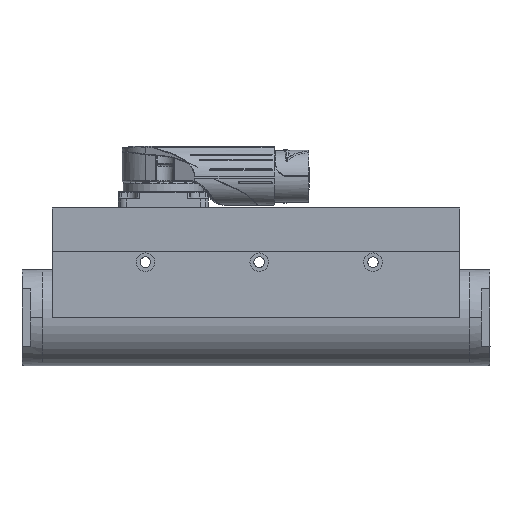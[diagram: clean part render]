
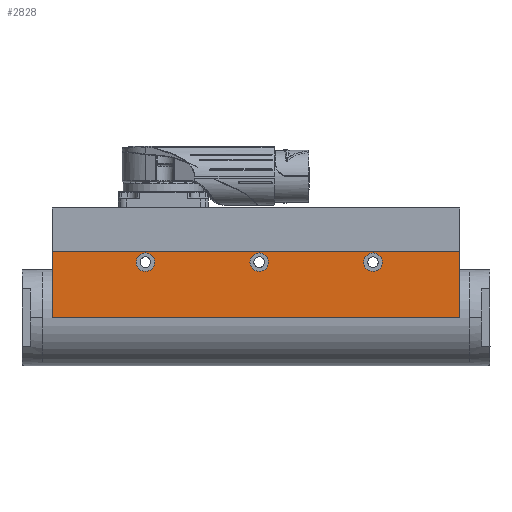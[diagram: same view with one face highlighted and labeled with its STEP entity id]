
A CAD part, left-side view. The second image highlights one B-rep face of the part: STEP entity #2828.
In plain terms, the highlighted planar face has unit normal (-1, 0, 0) as drawn and (0, 1, 0) by its records, which use the part's own axes.
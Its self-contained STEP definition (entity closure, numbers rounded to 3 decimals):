
#2828=ADVANCED_FACE('142:4343',(#7450,#7451,#7452,#7453),#7454,.T.);
#7450=FACE_BOUND('',#14123,.T.);
#7451=FACE_BOUND('',#14124,.T.);
#7452=FACE_BOUND('',#14125,.T.);
#7453=FACE_OUTER_BOUND('',#14126,.T.);
#7454=PLANE('',#14127);
#14123=EDGE_LOOP('',(#43913,#43914));
#14124=EDGE_LOOP('',(#43915,#43916));
#14125=EDGE_LOOP('',(#43917,#43918));
#14126=EDGE_LOOP('',(#43919,#43920,#43921,#43922));
#14127=AXIS2_PLACEMENT_3D('',#43923,#43924,#43925);
#43913=ORIENTED_EDGE('',*,*,#61855,.F.);
#43914=ORIENTED_EDGE('',*,*,#61957,.F.);
#43915=ORIENTED_EDGE('',*,*,#61835,.F.);
#43916=ORIENTED_EDGE('',*,*,#61958,.F.);
#43917=ORIENTED_EDGE('',*,*,#61820,.F.);
#43918=ORIENTED_EDGE('',*,*,#61959,.F.);
#43919=ORIENTED_EDGE('',*,*,#61935,.T.);
#43920=ORIENTED_EDGE('',*,*,#61960,.F.);
#43921=ORIENTED_EDGE('',*,*,#61906,.T.);
#43922=ORIENTED_EDGE('',*,*,#61961,.T.);
#43923=CARTESIAN_POINT('',(26.866,10.041,0.));
#43924=DIRECTION('',(0.0,1.0,0.0));
#43925=DIRECTION('',(-1.0,0.0,0.0));
#61820=EDGE_CURVE('142:6230',#74264,#74267,#74268,.T.);
#61835=EDGE_CURVE('142:6260',#74291,#74294,#74295,.T.);
#61855=EDGE_CURVE('142:6290',#74327,#74330,#74331,.T.);
#61906=EDGE_CURVE('91:1120',#74419,#74420,#74421,.F.);
#61935=EDGE_CURVE('126:3204',#74460,#74457,#74461,.T.);
#61957=EDGE_CURVE('',#74330,#74327,#74484,.T.);
#61958=EDGE_CURVE('',#74294,#74291,#74485,.T.);
#61959=EDGE_CURVE('',#74267,#74264,#74486,.T.);
#61960=EDGE_CURVE('38:20552',#74419,#74457,#74487,.T.);
#61961=EDGE_CURVE('39:16806',#74420,#74460,#74488,.F.);
#74264=VERTEX_POINT('',#96951);
#74267=VERTEX_POINT('',#96955);
#74268=CIRCLE('',#96956,2.9);
#74291=VERTEX_POINT('',#96984);
#74294=VERTEX_POINT('',#96988);
#74295=CIRCLE('',#96989,2.9);
#74327=VERTEX_POINT('',#97028);
#74330=VERTEX_POINT('',#97032);
#74331=CIRCLE('',#97033,2.9);
#74419=VERTEX_POINT('',#97295);
#74420=VERTEX_POINT('',#97296);
#74421=LINE('',#97297,#97298);
#74457=VERTEX_POINT('',#97426);
#74460=VERTEX_POINT('',#97430);
#74461=LINE('',#97431,#97432);
#74484=CIRCLE('',#97459,2.9);
#74485=CIRCLE('',#97460,2.9);
#74486=CIRCLE('',#97461,2.9);
#74487=LINE('',#97462,#97463);
#74488=LINE('',#97464,#97465);
#96951=CARTESIAN_POINT('',(104.266,10.041,17.3));
#96955=CARTESIAN_POINT('',(98.466,10.041,17.3));
#96956=AXIS2_PLACEMENT_3D('',#140741,#140742,#140743);
#96984=CARTESIAN_POINT('',(68.766,10.041,17.3));
#96988=CARTESIAN_POINT('',(62.966,10.041,17.3));
#96989=AXIS2_PLACEMENT_3D('',#140765,#140766,#140767);
#97028=CARTESIAN_POINT('',(33.266,10.041,17.3));
#97032=CARTESIAN_POINT('',(27.466,10.041,17.3));
#97033=AXIS2_PLACEMENT_3D('',#140797,#140798,#140799);
#97295=CARTESIAN_POINT('',(130.366,10.041,0.));
#97296=CARTESIAN_POINT('',(3.366,10.041,0.));
#97297=CARTESIAN_POINT('',(3.366,10.041,0.));
#97298=VECTOR('',#140850,1.0);
#97426=CARTESIAN_POINT('',(130.366,10.041,20.7));
#97430=CARTESIAN_POINT('',(3.366,10.041,20.7));
#97431=CARTESIAN_POINT('',(15.116,10.041,20.7));
#97432=VECTOR('',#140899,1.);
#97459=AXIS2_PLACEMENT_3D('',#140916,#140917,#140918);
#97460=AXIS2_PLACEMENT_3D('',#140919,#140920,#140921);
#97461=AXIS2_PLACEMENT_3D('',#140922,#140923,#140924);
#97462=CARTESIAN_POINT('',(130.366,10.041,0.));
#97463=VECTOR('',#140925,1.0);
#97464=CARTESIAN_POINT('',(3.366,10.041,-0.15));
#97465=VECTOR('',#140926,1.0);
#140741=CARTESIAN_POINT('',(101.366,10.041,17.3));
#140742=DIRECTION('',(0.0,1.0,0.0));
#140743=DIRECTION('',(-1.0,0.0,0.0));
#140765=CARTESIAN_POINT('',(65.866,10.041,17.3));
#140766=DIRECTION('',(0.0,1.0,0.0));
#140767=DIRECTION('',(-1.0,0.0,0.0));
#140797=CARTESIAN_POINT('',(30.366,10.041,17.3));
#140798=DIRECTION('',(0.0,1.0,0.0));
#140799=DIRECTION('',(-1.0,0.0,0.0));
#140850=DIRECTION('',(1.0,0.0,0.0));
#140899=DIRECTION('',(1.0,-0.0,0.));
#140916=CARTESIAN_POINT('',(30.366,10.041,17.3));
#140917=DIRECTION('',(0.0,1.0,0.0));
#140918=DIRECTION('',(-1.0,0.0,0.0));
#140919=CARTESIAN_POINT('',(65.866,10.041,17.3));
#140920=DIRECTION('',(0.0,1.0,0.0));
#140921=DIRECTION('',(-1.0,0.0,0.0));
#140922=CARTESIAN_POINT('',(101.366,10.041,17.3));
#140923=DIRECTION('',(0.0,1.0,0.0));
#140924=DIRECTION('',(-1.0,0.0,0.0));
#140925=DIRECTION('',(0.0,0.0,1.0));
#140926=DIRECTION('',(0.0,0.0,-1.0));
